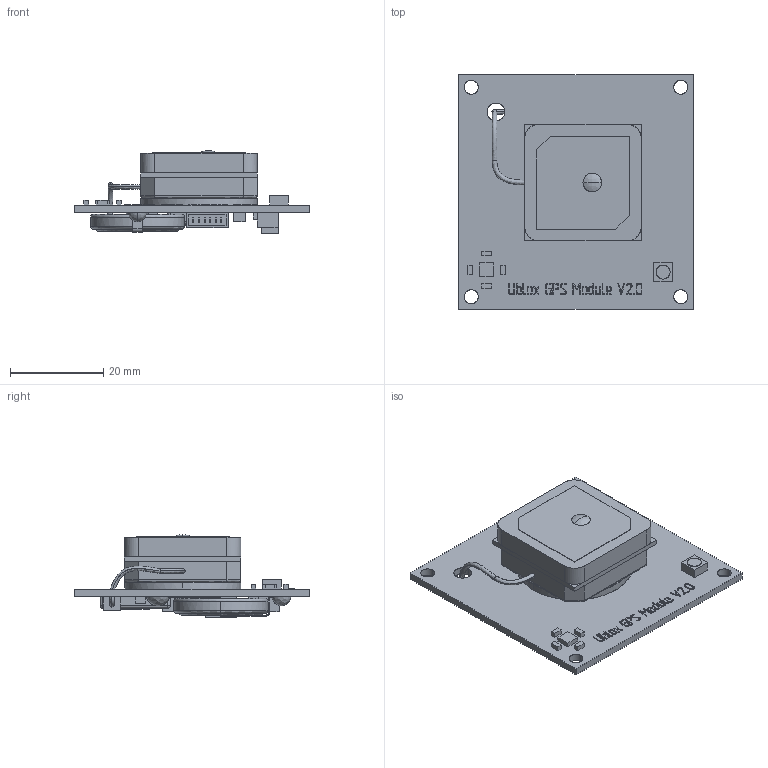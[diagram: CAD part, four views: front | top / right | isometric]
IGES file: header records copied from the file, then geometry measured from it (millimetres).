
Start section: -==*** IGES character data file generated with Crossing utility ***==-
Global section: file name: Ublox GPS Module V2.0 NEO-6M v01.grb; native system: Unknown; preprocessor: Unknown; author: Unknown; organization: Unknown; date: 171003.155151; units: millimetre
Bounding box: 50.4 x 50.4 x 17.8 mm (x, y, z)
Surface area: 16823.5 mm2 (no closed solid volume)
Topology: 0 solids, 0 shells, 1830 faces, 11008 edges, 10998 vertices
Faces by surface type: bspline 1830
